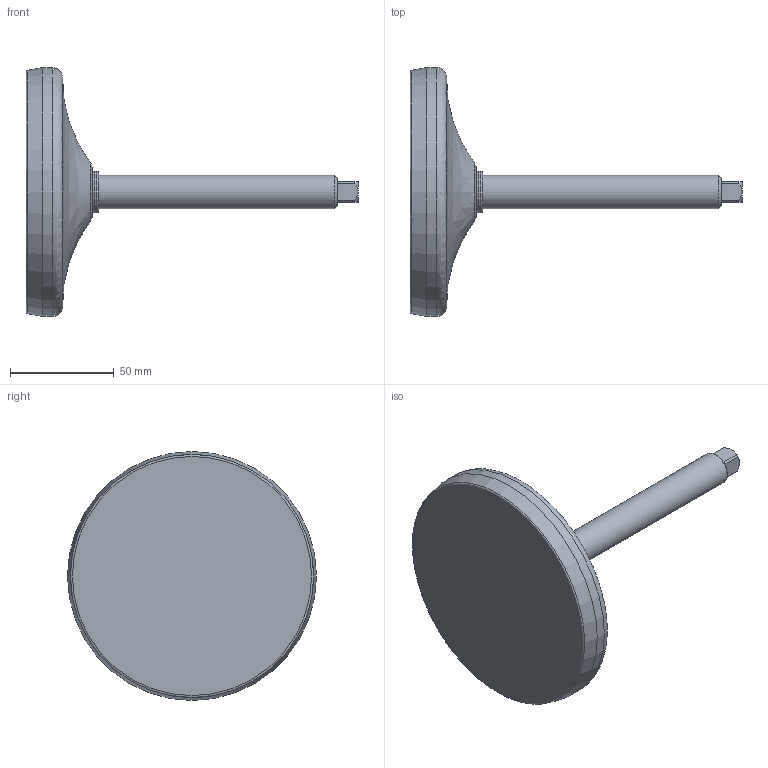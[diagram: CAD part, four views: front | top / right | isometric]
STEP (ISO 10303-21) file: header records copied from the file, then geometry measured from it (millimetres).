
FILE_DESCRIPTION(('STEP AP203'),'2;1');
FILE_NAME('28060Z.stp','2016-10-13T07:18:58',(''),(''),'2008.1.107','THINKDESIGN','');
FILE_SCHEMA(('CONFIG_CONTROL_DESIGN'));
Length unit declared in the file: millimetre
Bounding box: 160 x 120 x 120 mm (x, y, z)
Volume: 254619.4 mm3; surface area: 57777.9 mm2
Topology: 3 solids, 3 shells, 34 faces, 76 edges, 49 vertices
Faces by surface type: plane 15, bspline 12, cylinder 7
Full cylindrical faces by diameter (mm): 16 x1, 20 x1, 120 x1
Entity records: 1899 total; most frequent: CARTESIAN_POINT 1055, DIRECTION 163, ORIENTED_EDGE 152, EDGE_CURVE 76, AXIS2_PLACEMENT_3D 73, CIRCLE 51, VERTEX_POINT 49, EDGE_LOOP 35
